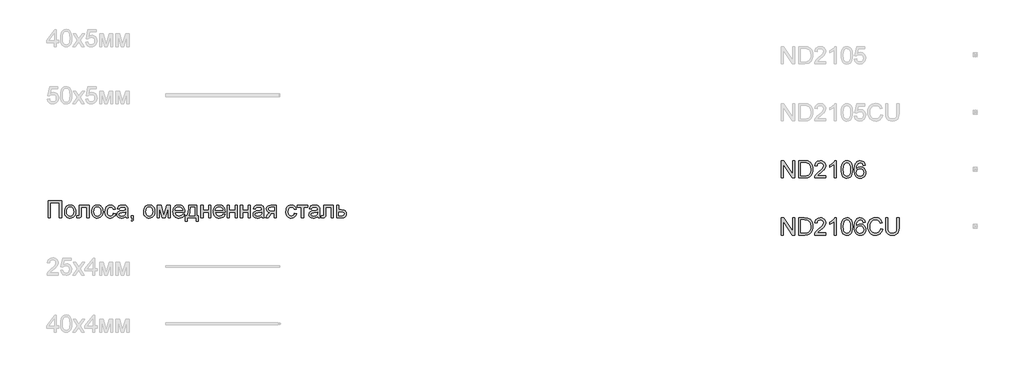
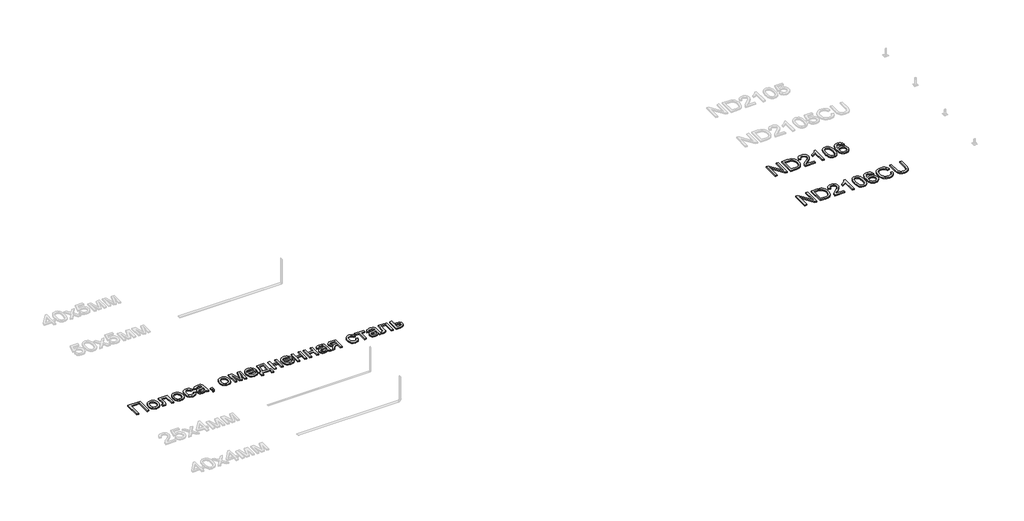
# One storey, part 85 of 124: 3 proxies.
"""IFC4 building model written with IfcOpenShell, lengths in millimetres."""

from ifc_helpers import new_model, si_unit, origin, origin_with_axes, place, context, project, spatial, polyline, outline, extrude, element, save

model = new_model("IFC4")

# Units and contexts
model_context = context("Model", 3, world=origin())
ifc_project = project(units=[si_unit("LENGTHUNIT", "METRE", prefix="MILLI")], contexts=[model_context])

# Site, building, storey
site = spatial("IfcSite", under=ifc_project)
building = spatial("IfcBuilding", under=site)
storey = spatial("IfcBuildingStorey", under=building, Name="Этаж 01", Elevation=0.0)

# Proxies
placement = place(None, origin())
element("IfcBuildingElementProxy", 1, Name="300", ObjectType="300", at=placement, inside=storey, context=model_context, shape_type="SweptSolid", body=[
    extrude(outline(polyline([(1299.8220677, -24918.1451728), (1535.2665446, -24918.1451728), (1535.2665446, -25219.5141033), (1497.5954283, -25219.5141033), (1497.5954283, -24955.8162891), (1337.493184, -24955.8162891), (1337.493184, -25219.5141033), (1299.8220677, -25219.5141033), (1299.8220677, -24918.1451728)])), origin_with_axes(), (0.0, 0.0, 1.0), 20.0),
    extrude(outline(polyline([(1587.0643295, -25108.8551991), (1589.1014761, -25080.1925932), (1595.2129157, -25055.4939157), (1605.3986485, -25034.7591668), (1619.6586743, -25017.9883463), (1634.0152692, -25007.2691847), (1649.8617861, -24999.6126406), (1667.1982251, -24995.0187142), (1686.0245862, -24993.4874054), (1706.8076197, -24995.3521073), (1725.5994919, -25000.9462129), (1742.4002027, -25010.2697222), (1757.2097523, -25023.3226352), (1769.2969751, -25039.6634936), (1777.9307057, -25058.8508389), (1783.110944, -25080.8846712), (1784.8376901, -25105.7649904), (1781.7842696, -25143.8223828), (1772.6240079, -25172.7930899), (1757.6236195, -25194.4889305), (1737.049819, -25210.7217236), (1712.6132574, -25220.8476755), (1686.0245862, -25224.2229928), (1664.9380501, -25222.3651887), (1645.971434, -25216.7917765), (1629.1247379, -25207.5027561), (1614.3979618, -25194.4981276), (1602.4394977, -25177.9986201), (1593.8977376, -25158.2249629), (1588.7726815, -25135.1771559), (1587.0643295, -25108.8551991)]), holes=[polyline([(1624.7354458, -25108.7816227), (1629.0948475, -25142.8750866), (1642.1730524, -25167.1644953), (1661.8547391, -25181.7050312), (1686.0245862, -25186.5518765), (1710.0840687, -25181.6774401), (1729.7289673, -25167.0541307), (1742.8071722, -25142.4428253), (1747.1665738, -25107.6044003), (1742.779581, -25074.5042178), (1729.6186027, -25050.5459029), (1709.946113, -25036.005367), (1686.0245862, -25031.1585217), (1661.8547391, -25035.9869729), (1642.1730524, -25050.4723265), (1629.0948475, -25074.7065529), (1624.7354458, -25108.7816227)])]), origin_with_axes(), (0.0, 0.0, 1.0), 20.0),
    extrude(outline(polyline([(1846.0532541, -24998.196295), (2015.5732775, -24998.196295), (2015.5732775, -25219.2933741), (1977.9021612, -25219.2933741), (1977.9021612, -25035.8674113), (1883.7243704, -25035.8674113), (1883.7243704, -25141.4495439), (1881.1859847, -25190.15712), (1876.4311099, -25201.1843829), (1867.2432571, -25210.7217236), (1853.3005294, -25217.3160083), (1834.2810303, -25219.5141033), (1803.6732483, -25217.6011169), (1803.6732483, -25181.842987), (1820.5222437, -25181.842987), (1837.55518, -25179.5253304), (1844.360997, -25172.1676905), (1846.0532541, -25139.3158283), (1846.0532541, -24998.196295)])), origin_with_axes(), (0.0, 0.0, 1.0), 20.0),
    extrude(outline(polyline([(2062.6621729, -25108.8551991), (2064.6993194, -25080.1925932), (2070.8107591, -25055.4939157), (2080.9964918, -25034.7591668), (2095.2565177, -25017.9883463), (2109.6131125, -25007.2691847), (2125.4596295, -24999.6126406), (2142.7960685, -24995.0187142), (2161.6224296, -24993.4874054), (2182.4054631, -24995.3521073), (2201.1973352, -25000.9462129), (2217.9980461, -25010.2697222), (2232.8075957, -25023.3226352), (2244.8948185, -25039.6634936), (2253.528549, -25058.8508389), (2258.7087874, -25080.8846712), (2260.4355335, -25105.7649904), (2257.3821129, -25143.8223828), (2248.2218513, -25172.7930899), (2233.2214629, -25194.4889305), (2212.6476623, -25210.7217236), (2188.2111008, -25220.8476755), (2161.6224296, -25224.2229928), (2140.5358935, -25222.3651887), (2121.5692774, -25216.7917765), (2104.7225813, -25207.5027561), (2089.9958051, -25194.4981276), (2078.037341, -25177.9986201), (2069.495581, -25158.2249629), (2064.3705249, -25135.1771559), (2062.6621729, -25108.8551991)]), holes=[polyline([(2100.3332892, -25108.7816227), (2104.6926908, -25142.8750866), (2117.7708958, -25167.1644953), (2137.4525825, -25181.7050312), (2161.6224296, -25186.5518765), (2185.6819121, -25181.6774401), (2205.3268106, -25167.0541307), (2218.4050156, -25142.4428253), (2222.7644172, -25107.6044003), (2218.3774244, -25074.5042178), (2205.216446, -25050.5459029), (2185.5439563, -25036.005367), (2161.6224296, -25031.1585217), (2137.4525825, -25035.9869729), (2117.7708958, -25050.4723265), (2104.6926908, -25074.7065529), (2100.3332892, -25108.7816227)])]), origin_with_axes(), (0.0, 0.0, 1.0), 20.0),
    extrude(outline(polyline([(2444.0822255, -25139.4629811), (2481.7533418, -25144.1718706), (2471.2503108, -25177.6767234), (2451.5134418, -25202.9962017), (2424.4005387, -25218.916295), (2391.7694058, -25224.2229928), (2370.6414829, -25222.3720865), (2351.6978595, -25216.8193676), (2334.9385353, -25207.5648362), (2320.3635105, -25194.6084922), (2308.5659948, -25178.1940574), (2300.1391978, -25158.5652537), (2295.0831197, -25135.7220811), (2293.3977603, -25109.6645395), (2296.2764369, -25076.1412927), (2304.9124667, -25047.0878121), (2319.4438055, -25023.6261379), (2340.0084091, -25006.87831), (2364.6105175, -24996.8351316), (2391.254371, -24993.4874054), (2423.0853606, -24998.0859304), (2448.5335976, -25011.8815052), (2466.7897416, -25034.1383659), (2477.0444523, -25064.1207485), (2439.373336, -25068.829638), (2432.5399279, -25052.3945099), (2421.8989412, -25040.613089), (2408.038987, -25033.5221635), (2391.5486766, -25031.1585217), (2367.2040855, -25035.812229), (2347.8810838, -25049.7733507), (2335.2719284, -25073.796045), (2331.0688766, -25108.6344699), (2335.1799579, -25143.9419444), (2347.5132018, -25168.0474121), (2366.4867157, -25181.9257604), (2390.518607, -25186.5518765), (2410.0255498, -25183.6640028), (2426.0192195, -25175.0003818), (2437.6534876, -25160.3402843), (2444.0822255, -25139.4629811)])), origin_with_axes(), (0.0, 0.0, 1.0), 20.0),
    extrude(outline(polyline([(2655.9822547, -25191.260766), (2637.9836281, -25206.6934157), (2619.4515726, -25216.7917765), (2599.9630239, -25222.3651887), (2579.0949177, -25224.2229928), (2547.613416, -25219.7532266), (2524.390865, -25206.3439278), (2510.0710584, -25185.9816594), (2505.2977895, -25160.652984), (2507.1004113, -25145.0363933), (2512.5082766, -25130.8545424), (2520.8500008, -25118.7144366), (2531.4541993, -25109.2230811), (2557.8313384, -25096.8622461), (2590.4256832, -25091.1968633), (2628.9429281, -25085.237175), (2655.7615255, -25078.2474171), (2655.9822547, -25069.8597076), (2653.3886866, -25053.0475004), (2645.6079824, -25042.0478288), (2628.2071641, -25033.8808485), (2603.9637406, -25031.1585217), (2581.5229389, -25032.9703406), (2565.8511659, -25038.405797), (2555.1641939, -25048.4581726), (2547.6777953, -25064.1207485), (2510.006679, -25059.411859), (2516.5457815, -25038.8104672), (2526.3038514, -25022.6236594), (2540.1913967, -25010.2444303), (2559.1189254, -25001.0657745), (2582.2678999, -24995.3819977), (2608.8197829, -24993.4874054), (2634.286414, -24995.1612685), (2654.4739385, -25000.1828577), (2669.6950561, -25007.7336357), (2680.2624664, -25016.9950649), (2687.2706184, -25028.445392), (2691.813961, -25042.5628636), (2693.653371, -25075.5250903), (2693.653371, -25122.3932565), (2695.5663574, -25187.8394635), (2703.0711501, -25219.5141033), (2665.4000338, -25219.5141033), (2655.9822547, -25191.260766)]), holes=[polyline([(2655.9822547, -25115.9185334), (2595.2081491, -25127.4700281), (2562.7977453, -25133.5768692), (2548.1192537, -25143.5096831), (2542.9689058, -25158.0042337), (2545.774006, -25169.2062404), (2554.1893066, -25178.3848962), (2568.0308667, -25184.5101314), (2587.1147452, -25186.5518765), (2607.348255, -25184.2985993), (2625.2273199, -25177.5387676), (2639.7218705, -25167.5783626), (2649.8018372, -25155.7233653), (2654.2716034, -25143.5096831), (2655.7615255, -25126.5871113), (2655.9822547, -25115.9185334)])]), origin_with_axes(), (0.0, 0.0, 1.0), 20.0),
    extrude(outline(polyline([(2754.868935, -25219.5141033), (2754.868935, -25181.842987), (2792.5400513, -25181.842987), (2792.5400513, -25219.5141033), (2790.8477941, -25241.0627911), (2785.7710226, -25258.0313482), (2777.0154311, -25271.0451737), (2764.2867141, -25280.7296673), (2754.868935, -25266.6029986), (2763.0359153, -25259.7787876), (2768.701298, -25250.3426145), (2773.6309168, -25219.5141033), (2754.868935, -25219.5141033)])), origin_with_axes(), (0.0, 0.0, 1.0), 20.0),
    extrude(outline(polyline([(2971.4778538, -25108.8551991), (2973.5150003, -25080.1925932), (2979.62644, -25055.4939157), (2989.8121727, -25034.7591668), (3004.0721985, -25017.9883463), (3018.4287934, -25007.2691847), (3034.2753104, -24999.6126406), (3051.6117494, -24995.0187142), (3070.4381105, -24993.4874054), (3091.2211439, -24995.3521073), (3110.0130161, -25000.9462129), (3126.813727, -25010.2697222), (3141.6232765, -25023.3226352), (3153.7104994, -25039.6634936), (3162.3442299, -25058.8508389), (3167.5244683, -25080.8846712), (3169.2512144, -25105.7649904), (3166.1977938, -25143.8223828), (3157.0375321, -25172.7930899), (3142.0371438, -25194.4889305), (3121.4633432, -25210.7217236), (3097.0267817, -25220.8476755), (3070.4381105, -25224.2229928), (3049.3515744, -25222.3651887), (3030.3849583, -25216.7917765), (3013.5382621, -25207.5027561), (2998.811486, -25194.4981276), (2986.8530219, -25177.9986201), (2978.3112618, -25158.2249629), (2973.1862058, -25135.1771559), (2971.4778538, -25108.8551991)]), holes=[polyline([(3009.1489701, -25108.7816227), (3013.5083717, -25142.8750866), (3026.5865767, -25167.1644953), (3046.2682634, -25181.7050312), (3070.4381105, -25186.5518765), (3094.497593, -25181.6774401), (3114.1424915, -25167.0541307), (3127.2206964, -25142.4428253), (3131.5800981, -25107.6044003), (3127.1931053, -25074.5042178), (3114.0321269, -25050.5459029), (3094.3596372, -25036.005367), (3070.4381105, -25031.1585217), (3046.2682634, -25035.9869729), (3026.5865767, -25050.4723265), (3013.5083717, -25074.7065529), (3009.1489701, -25108.7816227)])]), origin_with_axes(), (0.0, 0.0, 1.0), 20.0),
    extrude(outline(polyline([(3211.6312202, -24998.196295), (3276.4520278, -24998.196295), (3326.4104027, -25175.3682638), (3380.2683268, -24998.196295), (3442.3668076, -24998.196295), (3442.3668076, -25219.5141033), (3404.6956913, -25219.5141033), (3404.6956913, -25041.3120648), (3350.5434616, -25219.5141033), (3301.1001215, -25219.5141033), (3249.3023365, -25032.7772025), (3249.3023365, -25219.5141033), (3211.6312202, -25219.5141033), (3211.6312202, -24998.196295)])), origin_with_axes(), (0.0, 0.0, 1.0), 20.0),
    extrude(outline(polyline([(3653.8253784, -25153.5896497), (3690.7607307, -25158.2985393), (3677.4525996, -25186.1288122), (3656.2166114, -25206.932539), (3627.5310128, -25219.9003794), (3591.8740504, -25224.2229928), (3568.4997482, -25222.3582909), (3547.6730287, -25216.7641853), (3529.3938921, -25207.440676), (3513.6623383, -25194.387763), (3501.0117962, -25177.9687297), (3491.9756947, -25158.5468596), (3486.5540337, -25136.1221527), (3484.7468134, -25110.6946091), (3486.5724278, -25084.404842), (3492.0492711, -25061.2328748), (3501.1773431, -25041.1787076), (3513.9566439, -25024.2423402), (3529.646811, -25010.7870562), (3547.5074818, -25001.1761391), (3567.5386565, -24995.4095888), (3589.7403349, -24993.4874054), (3611.2269427, -24995.4049903), (3630.6580098, -25001.157745), (3648.0335363, -25010.7456695), (3663.3535221, -25024.1687638), (3675.8592107, -25041.068343), (3684.7918454, -25061.085722), (3690.1514262, -25084.220901), (3691.9379531, -25110.4738799), (3691.7172239, -25120.627423), (3522.4179298, -25120.627423), (3528.9386381, -25148.8255779), (3544.0861793, -25169.5557283), (3565.9475668, -25182.3028394), (3592.6098144, -25186.5518765), (3612.6593832, -25184.5837078), (3629.5451667, -25178.6792018), (3643.2671652, -25168.4704764), (3653.8253784, -25153.5896497)]), holes=[polyline([(3522.4179298, -25082.9563067), (3654.2668368, -25082.9563067), (3649.1716712, -25063.0538907), (3639.183675, -25048.8168575), (3617.2211199, -25035.5731057), (3589.5931821, -25031.1585217), (3564.2001274, -25034.6809918), (3543.2032625, -25045.2484021), (3528.6075443, -25061.7203185), (3522.4179298, -25082.9563067)])]), origin_with_axes(), (0.0, 0.0, 1.0), 20.0),
    extrude(outline(polyline([(3762.5712962, -24998.196295), (3903.8379824, -24998.196295), (3903.8379824, -25181.842987), (3932.0913196, -25181.842987), (3932.0913196, -25280.7296673), (3894.4202033, -25280.7296673), (3894.4202033, -25219.5141033), (3739.0268485, -25219.5141033), (3739.0268485, -25280.7296673), (3701.3557322, -25280.7296673), (3701.3557322, -25181.842987), (3724.9001799, -25181.842987), (3742.0158897, -25150.9133082), (3753.9996457, -25109.9956333), (3760.8514479, -25059.0899622), (3762.5712962, -24998.196295)]), holes=[polyline([(3795.533523, -25035.8674113), (3792.4433142, -25081.9906164), (3786.7043551, -25121.6942807), (3778.3166456, -25154.9784043), (3767.2801857, -25181.842987), (3866.166866, -25181.842987), (3866.166866, -25035.8674113), (3795.533523, -25035.8674113)])]), origin_with_axes(), (0.0, 0.0, 1.0), 20.0),
    extrude(outline(polyline([(3974.4713254, -24998.196295), (4012.1424417, -24998.196295), (4012.1424417, -25082.9563067), (4111.029122, -25082.9563067), (4111.029122, -24998.196295), (4148.7002383, -24998.196295), (4148.7002383, -25219.5141033), (4111.029122, -25219.5141033), (4111.029122, -25120.627423), (4012.1424417, -25120.627423), (4012.1424417, -25219.5141033), (3974.4713254, -25219.5141033), (3974.4713254, -24998.196295)])), origin_with_axes(), (0.0, 0.0, 1.0), 20.0),
    extrude(outline(polyline([(4360.1588092, -25153.5896497), (4397.0941615, -25158.2985393), (4383.7860303, -25186.1288122), (4362.5500421, -25206.932539), (4333.8644436, -25219.9003794), (4298.2074812, -25224.2229928), (4274.8331789, -25222.3582909), (4254.0064595, -25216.7641853), (4235.7273228, -25207.440676), (4219.995769, -25194.387763), (4207.3452269, -25177.9687297), (4198.3091254, -25158.5468596), (4192.8874645, -25136.1221527), (4191.0802442, -25110.6946091), (4192.9058586, -25084.404842), (4198.3827018, -25061.2328748), (4207.5107738, -25041.1787076), (4220.2900746, -25024.2423402), (4235.9802417, -25010.7870562), (4253.8409126, -25001.1761391), (4273.8720872, -24995.4095888), (4296.0737656, -24993.4874054), (4317.5603734, -24995.4049903), (4336.9914405, -25001.157745), (4354.366967, -25010.7456695), (4369.6869528, -25024.1687638), (4382.1926414, -25041.068343), (4391.1252761, -25061.085722), (4396.4848569, -25084.220901), (4398.2713839, -25110.4738799), (4398.0506547, -25120.627423), (4228.7513605, -25120.627423), (4235.2720689, -25148.8255779), (4250.41961, -25169.5557283), (4272.2809976, -25182.3028394), (4298.9432452, -25186.5518765), (4318.9928139, -25184.5837078), (4335.8785975, -25178.6792018), (4349.6005959, -25168.4704764), (4360.1588092, -25153.5896497)]), holes=[polyline([(4228.7513605, -25082.9563067), (4360.6002676, -25082.9563067), (4355.5051019, -25063.0538907), (4345.5171058, -25048.8168575), (4323.5545507, -25035.5731057), (4295.9266128, -25031.1585217), (4270.5335581, -25034.6809918), (4249.5366932, -25045.2484021), (4234.9409751, -25061.7203185), (4228.7513605, -25082.9563067)])]), origin_with_axes(), (0.0, 0.0, 1.0), 20.0),
    extrude(outline(polyline([(4435.9425002, -24998.196295), (4473.6136165, -24998.196295), (4473.6136165, -25082.9563067), (4572.5002968, -25082.9563067), (4572.5002968, -24998.196295), (4610.1714131, -24998.196295), (4610.1714131, -25219.5141033), (4572.5002968, -25219.5141033), (4572.5002968, -25120.627423), (4473.6136165, -25120.627423), (4473.6136165, -25219.5141033), (4435.9425002, -25219.5141033), (4435.9425002, -24998.196295)])), origin_with_axes(), (0.0, 0.0, 1.0), 20.0),
    extrude(outline(polyline([(4666.6780876, -24998.196295), (4704.3492039, -24998.196295), (4704.3492039, -25082.9563067), (4803.2358842, -25082.9563067), (4803.2358842, -24998.196295), (4840.9070005, -24998.196295), (4840.9070005, -25219.5141033), (4803.2358842, -25219.5141033), (4803.2358842, -25120.627423), (4704.3492039, -25120.627423), (4704.3492039, -25219.5141033), (4666.6780876, -25219.5141033), (4666.6780876, -24998.196295)])), origin_with_axes(), (0.0, 0.0, 1.0), 20.0),
    extrude(outline(polyline([(5038.6803611, -25191.260766), (5020.6817345, -25206.6934157), (5002.149679, -25216.7917765), (4982.6611303, -25222.3651887), (4961.7930241, -25224.2229928), (4930.3115223, -25219.7532266), (4907.0889714, -25206.3439278), (4892.7691647, -25185.9816594), (4887.9958959, -25160.652984), (4889.7985176, -25145.0363933), (4895.206383, -25130.8545424), (4903.5481072, -25118.7144366), (4914.1523057, -25109.2230811), (4940.5294448, -25096.8622461), (4973.1237895, -25091.1968633), (5011.6410344, -25085.237175), (5038.4596319, -25078.2474171), (5038.6803611, -25069.8597076), (5036.086793, -25053.0475004), (5028.3060888, -25042.0478288), (5010.9052704, -25033.8808485), (4986.661847, -25031.1585217), (4964.2210453, -25032.9703406), (4948.5492723, -25038.405797), (4937.8623003, -25048.4581726), (4930.3759017, -25064.1207485), (4892.7047854, -25059.411859), (4899.2438879, -25038.8104672), (4909.0019578, -25022.6236594), (4922.8895031, -25010.2444303), (4941.8170317, -25001.0657745), (4964.9660063, -24995.3819977), (4991.5178893, -24993.4874054), (5016.9845204, -24995.1612685), (5037.1720449, -25000.1828577), (5052.3931624, -25007.7336357), (5062.9605728, -25016.9950649), (5069.9687248, -25028.445392), (5074.5120674, -25042.5628636), (5076.3514774, -25075.5250903), (5076.3514774, -25122.3932565), (5078.2644638, -25187.8394635), (5085.7692565, -25219.5141033), (5048.0981402, -25219.5141033), (5038.6803611, -25191.260766)]), holes=[polyline([(5038.6803611, -25115.9185334), (4977.9062555, -25127.4700281), (4945.4958517, -25133.5768692), (4930.8173601, -25143.5096831), (4925.6670122, -25158.0042337), (4928.4721124, -25169.2062404), (4936.887413, -25178.3848962), (4950.7289731, -25184.5101314), (4969.8128516, -25186.5518765), (4990.0463613, -25184.2985993), (5007.9254263, -25177.5387676), (5022.4199769, -25167.5783626), (5032.4999436, -25155.7233653), (5036.9697098, -25143.5096831), (5038.4596319, -25126.5871113), (5038.6803611, -25115.9185334)])]), origin_with_axes(), (0.0, 0.0, 1.0), 20.0),
    extrude(outline(polyline([(5297.6692857, -24998.196295), (5297.6692857, -25219.5141033), (5259.9981694, -25219.5141033), (5259.9981694, -25134.7540916), (5239.470354, -25134.7540916), (5211.5113224, -25139.5365575), (5200.3461039, -25149.9660121), (5185.244548, -25171.6894439), (5155.2253771, -25219.5141033), (5111.6681489, -25219.5141033), (5149.486418, -25159.0343033), (5166.1882606, -25137.3292655), (5181.565728, -25127.6907573), (5155.8139883, -25119.7996885), (5137.7141942, -25104.8084972), (5127.0088281, -25084.869293), (5123.4403728, -25062.1341857), (5128.3148092, -25036.3456579), (5142.9381185, -25015.9282071), (5166.7952659, -25002.629273), (5199.3712166, -24998.196295), (5297.6692857, -24998.196295)]), holes=[polyline([(5259.9981694, -25035.8674113), (5210.3341, -25035.8674113), (5184.6835279, -25038.0471121), (5170.124598, -25044.5862146), (5163.3647663, -25054.0499789), (5161.1114891, -25065.0036653), (5164.4316241, -25079.3602601), (5174.3920291, -25089.3206652), (5192.7953259, -25095.1423977), (5221.4441363, -25097.0829753), (5259.9981694, -25097.0829753), (5259.9981694, -25035.8674113)])]), origin_with_axes(), (0.0, 0.0, 1.0), 20.0),
    extrude(outline(polyline([(5613.1648847, -25139.4629811), (5650.836001, -25144.1718706), (5640.3329701, -25177.6767234), (5620.596101, -25202.9962017), (5593.483198, -25218.916295), (5560.852065, -25224.2229928), (5539.7241422, -25222.3720865), (5520.7805187, -25216.8193676), (5504.0211946, -25207.5648362), (5489.4461698, -25194.6084922), (5477.648654, -25178.1940574), (5469.2218571, -25158.5652537), (5464.1657789, -25135.7220811), (5462.4804195, -25109.6645395), (5465.3590961, -25076.1412927), (5473.995126, -25047.0878121), (5488.5264648, -25023.6261379), (5509.0910683, -25006.87831), (5533.6931767, -24996.8351316), (5560.3370302, -24993.4874054), (5592.1680199, -24998.0859304), (5617.6162569, -25011.8815052), (5635.8724009, -25034.1383659), (5646.1271115, -25064.1207485), (5608.4559952, -25068.829638), (5601.6225871, -25052.3945099), (5590.9816004, -25040.613089), (5577.1216463, -25033.5221635), (5560.6313358, -25031.1585217), (5536.2867448, -25035.812229), (5516.963743, -25049.7733507), (5504.3545876, -25073.796045), (5500.1515358, -25108.6344699), (5504.2626171, -25143.9419444), (5516.595861, -25168.0474121), (5535.5693749, -25181.9257604), (5559.6012662, -25186.5518765), (5579.108209, -25183.6640028), (5595.1018788, -25175.0003818), (5606.7361469, -25160.3402843), (5613.1648847, -25139.4629811)])), origin_with_axes(), (0.0, 0.0, 1.0), 20.0),
    extrude(outline(polyline([(5664.9626697, -24998.196295), (5843.9004721, -24998.196295), (5843.9004721, -25035.8674113), (5773.267129, -25035.8674113), (5773.267129, -25219.5141033), (5735.5960127, -25219.5141033), (5735.5960127, -25035.8674113), (5664.9626697, -25035.8674113), (5664.9626697, -24998.196295)])), origin_with_axes(), (0.0, 0.0, 1.0), 20.0),
    extrude(outline(polyline([(6018.129385, -25191.260766), (6000.1307584, -25206.6934157), (5981.5987029, -25216.7917765), (5962.1101542, -25222.3651887), (5941.242048, -25224.2229928), (5909.7605463, -25219.7532266), (5886.5379954, -25206.3439278), (5872.2181887, -25185.9816594), (5867.4449198, -25160.652984), (5869.2475416, -25145.0363933), (5874.6554069, -25130.8545424), (5882.9971312, -25118.7144366), (5893.6013297, -25109.2230811), (5919.9784687, -25096.8622461), (5952.5728135, -25091.1968633), (5991.0900584, -25085.237175), (6017.9086558, -25078.2474171), (6018.129385, -25069.8597076), (6015.535817, -25053.0475004), (6007.7551128, -25042.0478288), (5990.3542944, -25033.8808485), (5966.1108709, -25031.1585217), (5943.6700692, -25032.9703406), (5927.9982962, -25038.405797), (5917.3113243, -25048.4581726), (5909.8249257, -25064.1207485), (5872.1538093, -25059.411859), (5878.6929118, -25038.8104672), (5888.4509817, -25022.6236594), (5902.3385271, -25010.2444303), (5921.2660557, -25001.0657745), (5944.4150302, -24995.3819977), (5970.9669133, -24993.4874054), (5996.4335444, -24995.1612685), (6016.6210689, -25000.1828577), (6031.8421864, -25007.7336357), (6042.4095967, -25016.9950649), (6049.4177487, -25028.445392), (6053.9610914, -25042.5628636), (6055.8005013, -25075.5250903), (6055.8005013, -25122.3932565), (6057.7134877, -25187.8394635), (6065.2182804, -25219.5141033), (6027.5471641, -25219.5141033), (6018.129385, -25191.260766)]), holes=[polyline([(6018.129385, -25115.9185334), (5957.3552794, -25127.4700281), (5924.9448757, -25133.5768692), (5910.266384, -25143.5096831), (5905.1160361, -25158.0042337), (5907.9211363, -25169.2062404), (5916.336437, -25178.3848962), (5930.177997, -25184.5101314), (5949.2618755, -25186.5518765), (5969.4953853, -25184.2985993), (5987.3744502, -25177.5387676), (6001.8690008, -25167.5783626), (6011.9489675, -25155.7233653), (6016.4187338, -25143.5096831), (6017.9086558, -25126.5871113), (6018.129385, -25115.9185334)])]), origin_with_axes(), (0.0, 0.0, 1.0), 20.0),
    extrude(outline(polyline([(6126.4338444, -24998.196295), (6295.9538678, -24998.196295), (6295.9538678, -25219.2933741), (6258.2827515, -25219.2933741), (6258.2827515, -25035.8674113), (6164.1049607, -25035.8674113), (6164.1049607, -25141.4495439), (6161.566575, -25190.15712), (6156.8117002, -25201.1843829), (6147.6238473, -25210.7217236), (6133.6811197, -25217.3160083), (6114.6616206, -25219.5141033), (6084.0538386, -25217.6011169), (6084.0538386, -25181.842987), (6100.9028339, -25181.842987), (6117.9357703, -25179.5253304), (6124.7415872, -25172.1676905), (6126.4338444, -25139.3158283), (6126.4338444, -24998.196295)])), origin_with_axes(), (0.0, 0.0, 1.0), 20.0),
    extrude(outline(polyline([(6352.4605422, -24998.196295), (6390.1316586, -24998.196295), (6390.1316586, -25078.2474171), (6433.541734, -25078.2474171), (6471.1760621, -25082.9655037), (6486.3236032, -25088.8631119), (6499.0247291, -25097.1197635), (6509.0679076, -25107.4503497), (6516.2416065, -25119.5697622), (6521.9805656, -25149.1750658), (6517.0969321, -25176.131619), (6502.4460317, -25198.8759233), (6491.2141345, -25207.9051271), (6477.052977, -25214.3545583), (6439.9428807, -25219.5141033), (6352.4605422, -25219.5141033), (6352.4605422, -24998.196295)]), holes=[polyline([(6390.1316586, -25181.842987), (6425.3011773, -25181.842987), (6452.5888243, -25179.8656212), (6470.7346037, -25173.9335241), (6480.9157379, -25163.8075721), (6484.3094493, -25149.2486422), (6481.7986547, -25136.9429894), (6474.2662709, -25126.0720765), (6458.1254483, -25118.4569192), (6429.7893376, -25115.9185334), (6390.1316586, -25115.9185334), (6390.1316586, -25181.842987)])]), origin_with_axes(), (0.0, 0.0, 1.0), 20.0),
])
element("IfcBuildingElementProxy", 2, Name="300", ObjectType="300", at=placement, inside=storey, context=model_context, shape_type="SweptSolid", body=[
    extrude(outline(polyline([(14140.1671275, -24519.5141033), (14140.1671275, -24218.1451728), (14180.4869942, -24218.1451728), (14337.9404881, -24456.9005877), (14337.9404881, -24218.1451728), (14375.6116044, -24218.1451728), (14375.6116044, -24519.5141033), (14335.2917378, -24519.5141033), (14177.8382438, -24280.685112), (14177.8382438, -24519.5141033), (14140.1671275, -24519.5141033)])), origin_with_axes(), (0.0, 0.0, 1.0), 20.0),
    extrude(outline(polyline([(14441.536058, -24519.5141033), (14441.536058, -24218.1451728), (14545.4995098, -24218.1451728), (14599.2838575, -24222.4861804), (14623.3065518, -24230.8554957), (14643.5768497, -24244.0440653), (14664.4173648, -24266.9999018), (14679.2614033, -24295.5475446), (14688.1457534, -24329.1351708), (14691.1072035, -24367.2109573), (14689.1022466, -24399.5569817), (14683.087376, -24428.0218511), (14673.9271143, -24452.2560775), (14662.4859843, -24471.9101731), (14649.3158089, -24487.4255962), (14634.968411, -24499.2438053), (14618.4964947, -24508.0085939), (14598.9527637, -24514.3637553), (14550.5027049, -24519.5141033), (14441.536058, -24519.5141033)]), holes=[polyline([(14479.2071743, -24481.842987), (14545.8673918, -24481.842987), (14573.4401473, -24480.4818236), (14594.3542388, -24476.3983334), (14610.1363764, -24469.8316398), (14622.3132704, -24461.020866), (14635.4006724, -24444.7144966), (14645.2323187, -24423.6072671), (14651.3851451, -24397.6072071), (14653.4360872, -24366.6223461), (14649.4169764, -24325.5667154), (14637.359644, -24295.253239), (14619.5449584, -24274.4311181), (14598.2537879, -24261.8495538), (14576.5855384, -24257.3246053), (14544.8373222, -24255.8162891), (14479.2071743, -24255.8162891), (14479.2071743, -24481.842987)])]), origin_with_axes(), (0.0, 0.0, 1.0), 20.0),
    extrude(outline(polyline([(14921.8427909, -24481.842987), (14921.8427909, -24519.5141033), (14724.0694303, -24519.5141033), (14728.1161322, -24493.5416344), (14737.4051526, -24473.2437453), (14750.9983923, -24453.5528615), (14770.661685, -24432.9422727), (14798.1608641, -24409.8852687), (14838.8118246, -24373.7776509), (14863.2024008, -24347.1246003), (14875.397689, -24325.493139), (14879.462785, -24304.4502889), (14875.6276152, -24285.5871396), (14864.1221058, -24269.9061695), (14846.4361789, -24259.3387592), (14824.0597566, -24255.8162891), (14800.5612941, -24259.2559858), (14782.3051501, -24269.5750757), (14770.5237292, -24285.9642186), (14766.4494361, -24307.614074), (14728.7783198, -24302.9051845), (14737.9109903, -24266.4664729), (14746.4573489, -24251.9305355), (14757.6570564, -24239.8502105), (14771.2525954, -24230.3542565), (14786.9864485, -24223.5714322), (14824.869097, -24218.1451728), (14845.0589207, -24219.653489), (14863.0276569, -24224.1784375), (14878.7753056, -24231.7200184), (14892.3018667, -24242.2782317), (14903.1658818, -24255.0713281), (14910.9258927, -24269.3175583), (14915.5818992, -24285.0169225), (14917.1339013, -24302.1694205), (14915.4600383, -24320.1864412), (14910.438449, -24337.8907622), (14901.5265077, -24355.8985859), (14888.1815883, -24374.8261146), (14866.9088119, -24397.4232661), (14834.2132996, -24426.4399585), (14790.8768006, -24462.676335), (14773.8806524, -24481.842987), (14921.8427909, -24481.842987)])), origin_with_axes(), (0.0, 0.0, 1.0), 20.0),
    extrude(outline(polyline([(15100.7805933, -24519.5141033), (15063.109477, -24519.5141033), (15063.109477, -24284.6582375), (15027.4249235, -24310.0788834), (14987.7672444, -24329.0983826), (14987.7672444, -24293.4874054), (15017.3541539, -24277.3925681), (15042.9863319, -24258.2443103), (15063.1922505, -24237.8820419), (15076.5003817, -24218.1451728), (15100.7805933, -24218.1451728), (15100.7805933, -24519.5141033)])), origin_with_axes(), (0.0, 0.0, 1.0), 20.0),
    extrude(outline(polyline([(15190.2494946, -24371.2576592), (15193.0178066, -24323.0191326), (15201.3227426, -24284.5478729), (15215.0815292, -24255.2552691), (15234.211393, -24234.5527098), (15258.8502896, -24222.2470571), (15289.1361749, -24218.1451728), (15312.3495288, -24220.573194), (15333.1348615, -24227.8572575), (15350.5172858, -24239.7122548), (15363.5219143, -24255.8530773), (15373.3443636, -24276.1417694), (15381.1802501, -24300.4403751), (15386.3122039, -24331.2964775), (15388.0228552, -24371.2576592), (15385.2821343, -24419.2202743), (15377.0599717, -24457.5995635), (15363.3839585, -24486.9197585), (15344.2816859, -24507.7050912), (15319.587607, -24520.0935174), (15289.1361749, -24524.2229928), (15268.3876303, -24522.4295681), (15249.9935306, -24517.0492939), (15233.9538756, -24508.0821703), (15220.2686654, -24495.5281972), (15207.1352781, -24472.8344766), (15197.7542873, -24444.5581467), (15192.1256927, -24410.6992076), (15190.2494946, -24371.2576592)]), holes=[polyline([(15227.9206109, -24371.1840828), (15232.3351948, -24430.4406752), (15237.8534247, -24450.7086739), (15245.5789466, -24464.7364742), (15265.2974216, -24481.0980259), (15289.1361749, -24486.5518765), (15312.9749282, -24481.0796318), (15332.6934031, -24464.6628978), (15340.418925, -24450.6121048), (15345.9371549, -24430.3487047), (15350.3517389, -24371.1840828), (15346.0843077, -24313.2610627), (15340.7500188, -24293.0597426), (15333.2820143, -24278.6985492), (15313.6003275, -24261.5368541), (15288.6947165, -24255.8162891), (15265.1134806, -24260.8562725), (15246.1675578, -24275.9762225), (15238.1845185, -24291.6112072), (15232.4823476, -24312.6908456), (15227.9206109, -24371.1840828)])]), origin_with_axes(), (0.0, 0.0, 1.0), 20.0),
    extrude(outline(polyline([(15614.049553, -24298.196295), (15576.3784367, -24302.9051845), (15570.3083838, -24284.2351732), (15562.1046153, -24271.4880621), (15545.0164966, -24259.7342324), (15524.3599226, -24255.8162891), (15506.8487396, -24258.0971575), (15490.3676262, -24264.9397626), (15476.2133665, -24279.3515398), (15464.6526748, -24299.1895763), (15456.8443794, -24327.2497755), (15453.9473087, -24366.3280405), (15469.0580617, -24348.6972959), (15487.1670529, -24336.2720815), (15507.2626069, -24328.9052445), (15528.3330481, -24326.4496322), (15546.4328423, -24328.1280938), (15563.1346849, -24333.1634786), (15578.4385759, -24341.5557866), (15592.3445153, -24353.3050178), (15603.9006085, -24367.7121965), (15612.1549607, -24384.0783467), (15617.1075721, -24402.4034686), (15618.7584425, -24422.6875621), (15615.6498397, -24449.6625094), (15606.3240311, -24474.669288), (15591.553569, -24495.8776851), (15572.1110056, -24511.4574876), (15548.8792576, -24521.0316165), (15522.7412418, -24524.2229928), (15500.2843453, -24522.1076713), (15480.002551, -24515.7617069), (15461.8958591, -24505.1850995), (15445.9642694, -24490.3778492), (15432.9757357, -24470.7145566), (15423.6982117, -24445.5698222), (15418.1316972, -24414.9436461), (15416.2761924, -24378.8360283), (15418.3363316, -24338.3552133), (15424.5167491, -24303.8064954), (15434.817445, -24275.1898747), (15449.2384192, -24252.5053512), (15464.8688054, -24237.4727731), (15482.9915922, -24226.7352174), (15503.6067795, -24220.292684), (15526.7143673, -24218.1451728), (15559.7685646, -24223.4610676), (15586.2376742, -24239.4087521), (15604.7789267, -24264.7374275), (15614.049553, -24298.196295)]), holes=[polyline([(15453.9473087, -24422.0989509), (15456.1270095, -24438.7915965), (15462.666112, -24454.7300839), (15472.8196551, -24468.4336882), (15485.8426777, -24478.4216844), (15501.5604359, -24484.5193285), (15519.7981858, -24486.5518765), (15544.6578117, -24482.3396276), (15564.2015427, -24469.7028811), (15576.8658803, -24449.8372534), (15581.0873262, -24423.9383609), (15576.9210626, -24399.0787351), (15564.4222719, -24380.1236153), (15544.5474471, -24368.1214652), (15518.2530815, -24364.1207485), (15493.4302438, -24368.1214652), (15472.6725023, -24380.1236153), (15458.6286071, -24398.6188826), (15453.9473087, -24422.0989509)])]), origin_with_axes(), (0.0, 0.0, 1.0), 20.0),
])
element("IfcBuildingElementProxy", 3, Name="300", ObjectType="300", at=placement, inside=storey, context=model_context, shape_type="SweptSolid", body=[
    extrude(outline(polyline([(14140.1671275, -25519.5141033), (14140.1671275, -25218.1451728), (14180.4869942, -25218.1451728), (14337.9404881, -25456.9005877), (14337.9404881, -25218.1451728), (14375.6116044, -25218.1451728), (14375.6116044, -25519.5141033), (14335.2917378, -25519.5141033), (14177.8382438, -25280.685112), (14177.8382438, -25519.5141033), (14140.1671275, -25519.5141033)])), origin_with_axes(), (0.0, 0.0, 1.0), 20.0),
    extrude(outline(polyline([(14441.536058, -25519.5141033), (14441.536058, -25218.1451728), (14545.4995098, -25218.1451728), (14599.2838575, -25222.4861804), (14623.3065518, -25230.8554957), (14643.5768497, -25244.0440653), (14664.4173648, -25266.9999018), (14679.2614033, -25295.5475446), (14688.1457534, -25329.1351708), (14691.1072035, -25367.2109573), (14689.1022466, -25399.5569817), (14683.087376, -25428.0218511), (14673.9271143, -25452.2560775), (14662.4859843, -25471.9101731), (14649.3158089, -25487.4255962), (14634.968411, -25499.2438053), (14618.4964947, -25508.0085939), (14598.9527637, -25514.3637553), (14550.5027049, -25519.5141033), (14441.536058, -25519.5141033)]), holes=[polyline([(14479.2071743, -25481.842987), (14545.8673918, -25481.842987), (14573.4401473, -25480.4818236), (14594.3542388, -25476.3983334), (14610.1363764, -25469.8316398), (14622.3132704, -25461.020866), (14635.4006724, -25444.7144966), (14645.2323187, -25423.6072671), (14651.3851451, -25397.6072071), (14653.4360872, -25366.6223461), (14649.4169764, -25325.5667154), (14637.359644, -25295.253239), (14619.5449584, -25274.4311181), (14598.2537879, -25261.8495538), (14576.5855384, -25257.3246053), (14544.8373222, -25255.8162891), (14479.2071743, -25255.8162891), (14479.2071743, -25481.842987)])]), origin_with_axes(), (0.0, 0.0, 1.0), 20.0),
    extrude(outline(polyline([(14921.8427909, -25481.842987), (14921.8427909, -25519.5141033), (14724.0694303, -25519.5141033), (14728.1161322, -25493.5416344), (14737.4051526, -25473.2437453), (14750.9983923, -25453.5528615), (14770.661685, -25432.9422727), (14798.1608641, -25409.8852687), (14838.8118246, -25373.7776509), (14863.2024008, -25347.1246003), (14875.397689, -25325.493139), (14879.462785, -25304.4502889), (14875.6276152, -25285.5871396), (14864.1221058, -25269.9061695), (14846.4361789, -25259.3387592), (14824.0597566, -25255.8162891), (14800.5612941, -25259.2559858), (14782.3051501, -25269.5750757), (14770.5237292, -25285.9642186), (14766.4494361, -25307.614074), (14728.7783198, -25302.9051845), (14737.9109903, -25266.4664729), (14746.4573489, -25251.9305355), (14757.6570564, -25239.8502105), (14771.2525954, -25230.3542565), (14786.9864485, -25223.5714322), (14824.869097, -25218.1451728), (14845.0589207, -25219.653489), (14863.0276569, -25224.1784375), (14878.7753056, -25231.7200184), (14892.3018667, -25242.2782317), (14903.1658818, -25255.0713281), (14910.9258927, -25269.3175583), (14915.5818992, -25285.0169225), (14917.1339013, -25302.1694205), (14915.4600383, -25320.1864412), (14910.438449, -25337.8907622), (14901.5265077, -25355.8985859), (14888.1815883, -25374.8261146), (14866.9088119, -25397.4232661), (14834.2132996, -25426.4399585), (14790.8768006, -25462.676335), (14773.8806524, -25481.842987), (14921.8427909, -25481.842987)])), origin_with_axes(), (0.0, 0.0, 1.0), 20.0),
    extrude(outline(polyline([(15100.7805933, -25519.5141033), (15063.109477, -25519.5141033), (15063.109477, -25284.6582375), (15027.4249235, -25310.0788834), (14987.7672444, -25329.0983826), (14987.7672444, -25293.4874054), (15017.3541539, -25277.3925681), (15042.9863319, -25258.2443103), (15063.1922505, -25237.8820419), (15076.5003817, -25218.1451728), (15100.7805933, -25218.1451728), (15100.7805933, -25519.5141033)])), origin_with_axes(), (0.0, 0.0, 1.0), 20.0),
    extrude(outline(polyline([(15190.2494946, -25371.2576592), (15193.0178066, -25323.0191326), (15201.3227426, -25284.5478729), (15215.0815292, -25255.2552691), (15234.211393, -25234.5527098), (15258.8502896, -25222.2470571), (15289.1361749, -25218.1451728), (15312.3495288, -25220.573194), (15333.1348615, -25227.8572575), (15350.5172858, -25239.7122548), (15363.5219143, -25255.8530773), (15373.3443636, -25276.1417694), (15381.1802501, -25300.4403751), (15386.3122039, -25331.2964775), (15388.0228552, -25371.2576592), (15385.2821343, -25419.2202743), (15377.0599717, -25457.5995635), (15363.3839585, -25486.9197585), (15344.2816859, -25507.7050912), (15319.587607, -25520.0935174), (15289.1361749, -25524.2229928), (15268.3876303, -25522.4295681), (15249.9935306, -25517.0492939), (15233.9538756, -25508.0821703), (15220.2686654, -25495.5281972), (15207.1352781, -25472.8344766), (15197.7542873, -25444.5581467), (15192.1256927, -25410.6992076), (15190.2494946, -25371.2576592)]), holes=[polyline([(15227.9206109, -25371.1840828), (15232.3351948, -25430.4406752), (15237.8534247, -25450.7086739), (15245.5789466, -25464.7364742), (15265.2974216, -25481.0980259), (15289.1361749, -25486.5518765), (15312.9749282, -25481.0796318), (15332.6934031, -25464.6628978), (15340.418925, -25450.6121048), (15345.9371549, -25430.3487047), (15350.3517389, -25371.1840828), (15346.0843077, -25313.2610627), (15340.7500188, -25293.0597426), (15333.2820143, -25278.6985492), (15313.6003275, -25261.5368541), (15288.6947165, -25255.8162891), (15265.1134806, -25260.8562725), (15246.1675578, -25275.9762225), (15238.1845185, -25291.6112072), (15232.4823476, -25312.6908456), (15227.9206109, -25371.1840828)])]), origin_with_axes(), (0.0, 0.0, 1.0), 20.0),
    extrude(outline(polyline([(15614.049553, -25298.196295), (15576.3784367, -25302.9051845), (15570.3083838, -25284.2351732), (15562.1046153, -25271.4880621), (15545.0164966, -25259.7342324), (15524.3599226, -25255.8162891), (15506.8487396, -25258.0971575), (15490.3676262, -25264.9397626), (15476.2133665, -25279.3515398), (15464.6526748, -25299.1895763), (15456.8443794, -25327.2497755), (15453.9473087, -25366.3280405), (15469.0580617, -25348.6972959), (15487.1670529, -25336.2720815), (15507.2626069, -25328.9052445), (15528.3330481, -25326.4496322), (15546.4328423, -25328.1280938), (15563.1346849, -25333.1634786), (15578.4385759, -25341.5557866), (15592.3445153, -25353.3050178), (15603.9006085, -25367.7121965), (15612.1549607, -25384.0783467), (15617.1075721, -25402.4034686), (15618.7584425, -25422.6875621), (15615.6498397, -25449.6625094), (15606.3240311, -25474.669288), (15591.553569, -25495.8776851), (15572.1110056, -25511.4574876), (15548.8792576, -25521.0316165), (15522.7412418, -25524.2229928), (15500.2843453, -25522.1076713), (15480.002551, -25515.7617069), (15461.8958591, -25505.1850995), (15445.9642694, -25490.3778492), (15432.9757357, -25470.7145566), (15423.6982116, -25445.5698222), (15418.1316972, -25414.9436461), (15416.2761924, -25378.8360283), (15418.3363316, -25338.3552133), (15424.5167491, -25303.8064954), (15434.817445, -25275.1898747), (15449.2384192, -25252.5053512), (15464.8688054, -25237.4727731), (15482.9915922, -25226.7352174), (15503.6067795, -25220.292684), (15526.7143673, -25218.1451728), (15559.7685646, -25223.4610676), (15586.2376742, -25239.4087521), (15604.7789267, -25264.7374275), (15614.049553, -25298.196295)]), holes=[polyline([(15453.9473087, -25422.0989509), (15456.1270095, -25438.7915965), (15462.666112, -25454.7300839), (15472.8196551, -25468.4336882), (15485.8426777, -25478.4216844), (15501.5604359, -25484.5193285), (15519.7981858, -25486.5518765), (15544.6578117, -25482.3396276), (15564.2015427, -25469.7028811), (15576.8658803, -25449.8372534), (15581.0873262, -25423.9383609), (15576.9210626, -25399.0787351), (15564.4222719, -25380.1236153), (15544.5474471, -25368.1214652), (15518.2530815, -25364.1207485), (15493.4302438, -25368.1214652), (15472.6725023, -25380.1236153), (15458.6286071, -25398.6188826), (15453.9473087, -25422.0989509)])]), origin_with_axes(), (0.0, 0.0, 1.0), 20.0),
    extrude(outline(polyline([(15877.7473671, -25412.3868663), (15915.4184835, -25422.0989509), (15907.9642745, -25445.5261362), (15898.0360592, -25465.99647), (15885.6338374, -25483.5099522), (15870.7576092, -25498.0665829), (15853.743067, -25509.5100123), (15834.9259029, -25517.6838903), (15814.3061171, -25522.5882172), (15791.8837095, -25524.2229928), (15748.1885255, -25519.27498), (15713.4880563, -25504.4309415), (15686.890188, -25480.2059121), (15667.5028069, -25447.1149266), (15655.6662037, -25408.2114056), (15651.7206693, -25366.5487697), (15656.1812385, -25322.6052653), (15669.5629461, -25284.6582375), (15691.1668162, -25253.9124998), (15720.2938732, -25231.5728656), (15754.8379926, -25217.9704289), (15792.6930499, -25213.4362833), (15833.9970009, -25219.3040011), (15851.9657371, -25226.6386484), (15868.1456471, -25236.9071546), (15882.2700164, -25249.8382067), (15894.0721307, -25265.1604918), (15910.7095939, -25302.9787609), (15873.0384776, -25311.9550816), (15859.9786668, -25284.4834936), (15842.13639, -25265.6387384), (15819.2909181, -25254.7402343), (15791.2215219, -25251.1073996), (15758.8663004, -25255.1357074), (15732.2868263, -25267.220631), (15712.1176959, -25286.0929773), (15698.9935057, -25310.4835536), (15691.7922156, -25338.0563091), (15689.3917856, -25366.4751933), (15692.233674, -25401.27683), (15700.7593393, -25431.3695772), (15715.2906781, -25455.6038036), (15736.1495872, -25472.8298781), (15761.1563658, -25483.1213769), (15788.1313131, -25486.5518765), (15819.5760267, -25481.8797752), (15845.7784218, -25467.8634711), (15865.5612761, -25444.6501172), (15877.7473671, -25412.3868663)])), origin_with_axes(), (0.0, 0.0, 1.0), 20.0),
    extrude(outline(polyline([(16164.989629, -25218.1451728), (16202.6607453, -25218.1451728), (16202.6607453, -25392.0062037), (16200.1039654, -25432.7215435), (16192.4336258, -25464.0742866), (16178.1046221, -25488.2625278), (16155.5718499, -25507.484362), (16124.7801269, -25520.0383351), (16085.6742708, -25524.2229928), (16047.4237404, -25520.580961), (16016.8435495, -25509.6548658), (15993.9245012, -25491.8217861), (15978.6573984, -25467.4588009), (15970.0765509, -25434.7816827), (15967.2162684, -25392.0062037), (15967.2162684, -25218.1451728), (16004.8873847, -25218.1451728), (16004.8873847, -25390.6818285), (16006.7451888, -25424.5361692), (16012.318601, -25448.108208), (16022.4169618, -25464.4329715), (16037.8496114, -25476.5454862), (16057.9727566, -25484.0502789), (16082.1426037, -25486.5518765), (16120.4575135, -25481.6038637), (16134.8003128, -25475.4188476), (16145.9333416, -25466.7598252), (16154.2704673, -25454.5829311), (16160.2255571, -25437.8443003), (16164.989629, -25390.6818285), (16164.989629, -25218.1451728)])), origin_with_axes(), (0.0, 0.0, 1.0), 20.0),
])

save(model, "model.ifc")
